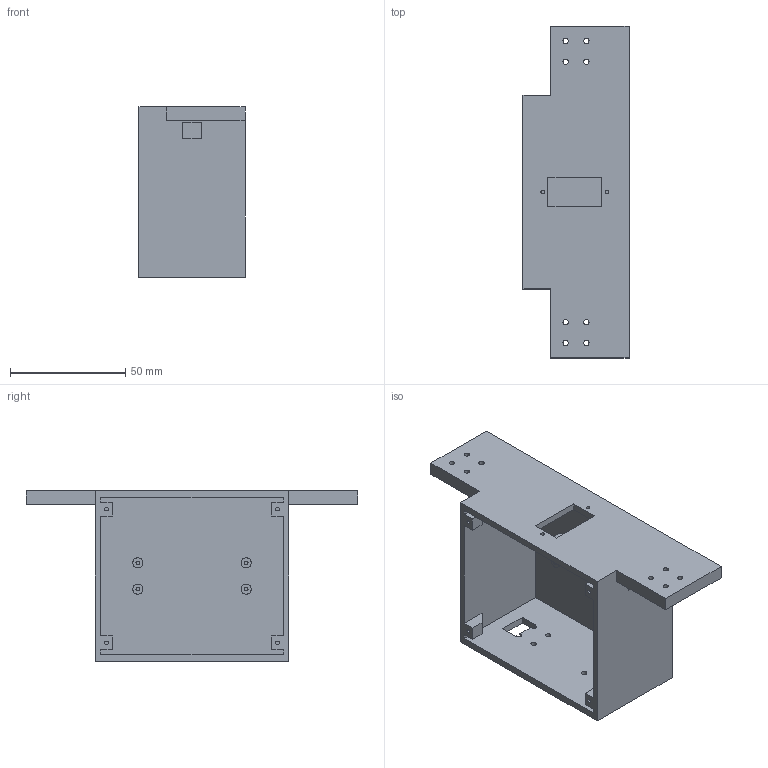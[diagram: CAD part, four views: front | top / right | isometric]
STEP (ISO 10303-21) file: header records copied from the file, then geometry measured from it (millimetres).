
FILE_DESCRIPTION(('FreeCAD Model'),'2;1');
FILE_NAME('Open CASCADE Shape Model','2026-11-08T20:38:38',('FreeCAD'),( 'FreeCAD'),'Open CASCADE STEP processor 7.8','FreeCAD','Unknown');
FILE_SCHEMA(('AUTOMOTIVE_DESIGN { 1 0 10303 214 1 1 1 1 }'));
Length unit declared in the file: millimetre
Products named in the file (1): Open CASCADE STEP translator 7.8 5
Bounding box: 46 x 144 x 74 mm (x, y, z)
Volume: 62415.6 mm3; surface area: 45676.7 mm2
Topology: 1 solids, 1 shells, 173 faces, 452 edges, 304 vertices
Faces by surface type: plane 143, cylinder 30
Full cylindrical faces by diameter (mm): 1.6 x10, 2.3 x12, 4.4 x4
Entity records: 5356 total; most frequent: CARTESIAN_POINT 930, ORIENTED_EDGE 904, DIRECTION 868, EDGE_CURVE 452, LINE 384, VECTOR 384, VERTEX_POINT 304, AXIS2_PLACEMENT_3D 242
